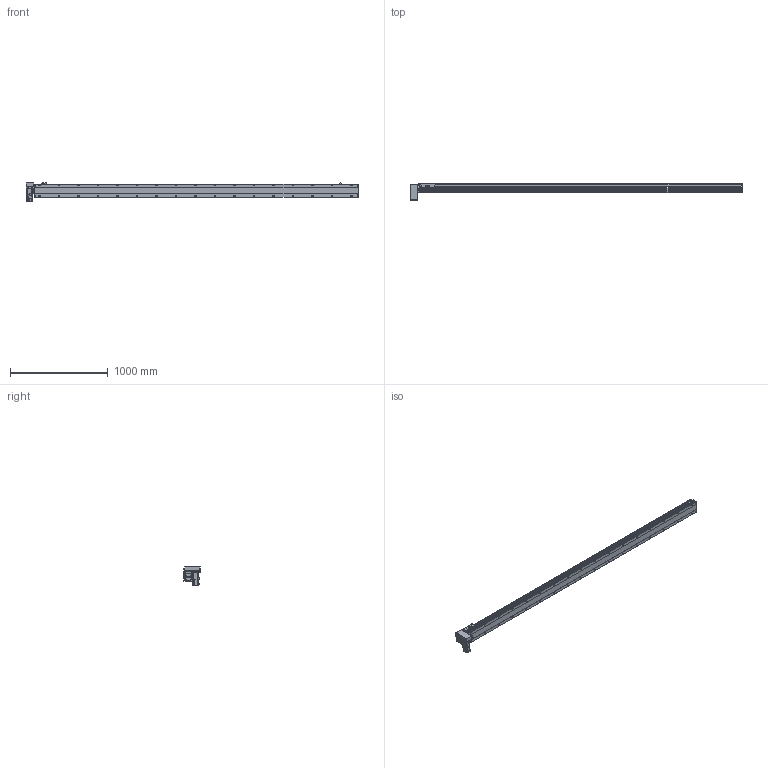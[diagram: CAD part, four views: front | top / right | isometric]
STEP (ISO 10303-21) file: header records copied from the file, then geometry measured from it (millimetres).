
FILE_DESCRIPTION( ( 'STEP AP214' ), '1' );
FILE_NAME( 'x:/temp/worker_6/temp/exporttempdir_5396_194_etCMR/format_0/PBS140S-P40-S3050-RD-T40-C1-N(0).stp', '2022-06-09T00:49:07', ( 'License CC BY-ND 4.0' ), ( 'CADENAS' ), ' ', 'PARTsolutions', ' ' );
FILE_SCHEMA( ( 'AUTOMOTIVE_DESIGN { 1 0 10303 214 1 1 1 1 }' ) );
Length unit declared in the file: millimetre
Products named in the file (7): PBS140S-P40-S3050-RD-T40-C1-N(0); _PBS140S-S3050()_body; _PBS140ST-RD_motors; _T40-p1; _PBS140S_sliser; _PBS140S_plant; _PBS140S_sensor
Assembly tree (8 placements, depth 2):
  PBS140S-P40-S3050-RD-T40-C1-N(0)
    _PBS140S-S3050()_body
    _PBS140ST-RD_motors
    _T40-p1
    _PBS140S_sliser
    _PBS140S_plant
    _PBS140S_sensor  x3
Bounding box: 3404 x 172.5 x 189.7 mm (x, y, z)
Volume: 16375919.2 mm3; surface area: 2746134.8 mm2
Topology: 8 solids, 8 shells, 1243 faces, 3271 edges, 2139 vertices
Faces by surface type: plane 756, cylinder 417, cone 60, sphere 8, torus 2
Full cylindrical faces by diameter (mm): 3.242 x4, 4 x2, 4.134 x4, 4.4 x8, 4.5 x2, 4.8 x4, 4.917 x42, 5.5 x7, 6 x2, 7 x36, 7.5 x8, 8 x12, 8.5 x4, 10.5 x34, 14 x1, 30 x2, 50 x2
Entity records: 46114 total; most frequent: CARTESIAN_POINT 7918, DIRECTION 5978, ORIENTED_EDGE 5602, EDGE_CURVE 2801, AXIS2_PLACEMENT_3D 2129, VERTEX_POINT 1969, LINE 1720, VECTOR 1720
